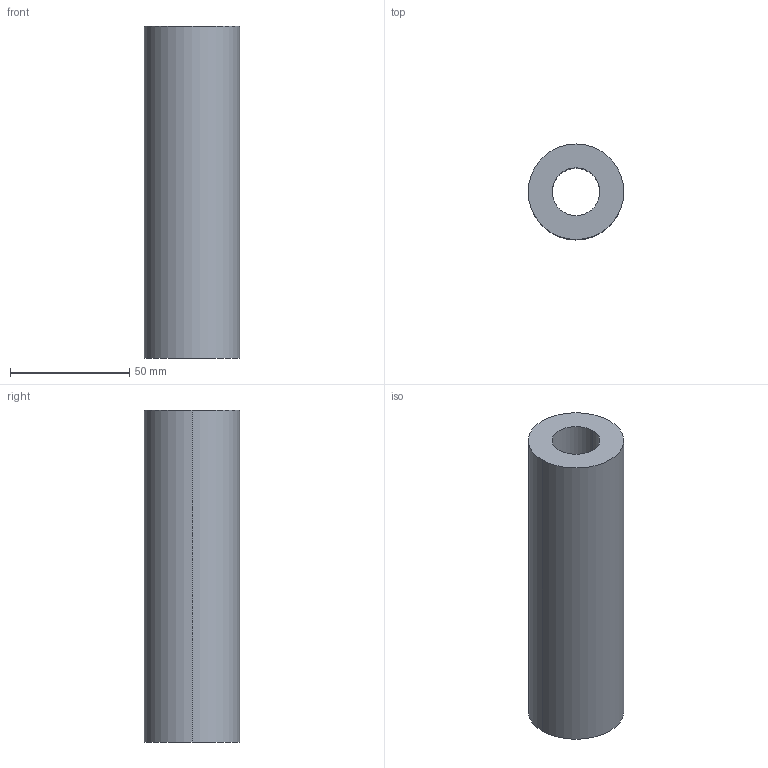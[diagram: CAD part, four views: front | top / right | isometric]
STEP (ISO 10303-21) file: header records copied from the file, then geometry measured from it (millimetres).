
FILE_DESCRIPTION (( 'STEP AP214' ), '1' );
FILE_NAME ('BRR-40X139.STEP', '2020-07-21T08:57:38', ( 'August' ), ( '' ), 'SwSTEP 2.0', 'SolidWorks 2018', '' );
FILE_SCHEMA (( 'AUTOMOTIVE_DESIGN' ));
Length unit declared in the file: millimetre
Products named in the file (1): BRR-40X139
Bounding box: 40 x 40 x 139 mm (x, y, z)
Volume: 131004.4 mm3; surface area: 28085.8 mm2
Topology: 1 solids, 1 shells, 6 faces, 12 edges, 8 vertices
Faces by surface type: cylinder 4, plane 2
Entity records: 202 total; most frequent: DIRECTION 34, CARTESIAN_POINT 27, ORIENTED_EDGE 24, AXIS2_PLACEMENT_3D 15, EDGE_CURVE 12, CIRCLE 8, EDGE_LOOP 8, VERTEX_POINT 8
